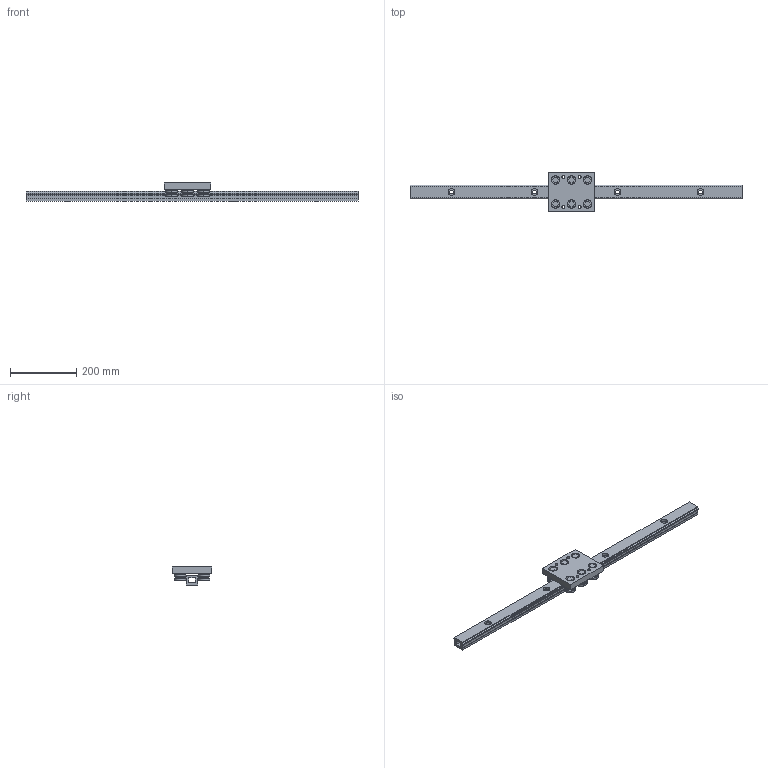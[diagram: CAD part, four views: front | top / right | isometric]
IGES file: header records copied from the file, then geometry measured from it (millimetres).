
Global section: file name: No Iges File Name specified; native system: AutoDesk Inventor R10; preprocessor: AutoDesk Inventor Iges Exporter R10; author: No Author specified; organization: No Organization specified; date: 20101224.114551; units: millimetre
Bounding box: 1000 x 120 x 54.3 mm (x, y, z)
Surface area: 288951.8 mm2 (no closed solid volume)
Topology: 0 solids, 0 shells, 243 faces, 1548 edges, 1548 vertices
Faces by surface type: bspline 243
